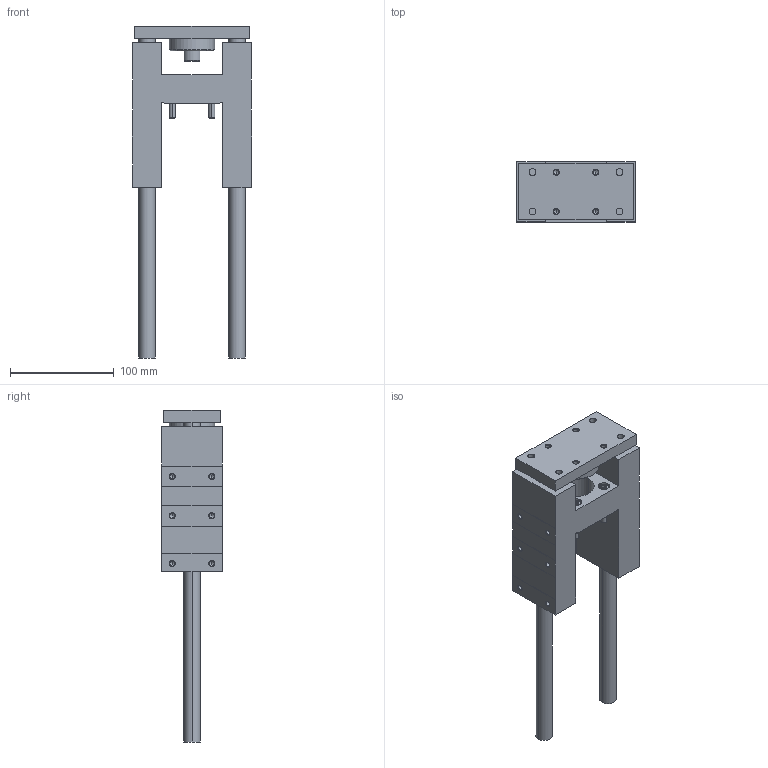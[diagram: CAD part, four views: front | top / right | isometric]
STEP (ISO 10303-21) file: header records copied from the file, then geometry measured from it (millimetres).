
FILE_DESCRIPTION (( 'STEP AP203' ), '1' );
FILE_NAME ('GB40-150.STEP', '2020-04-24T11:20:41', ( '' ), ( '' ), 'SwSTEP 2.0', 'SolidWorks 2019', '' );
FILE_SCHEMA (( 'CONFIG_CONTROL_DESIGN' ));
Length unit declared in the file: millimetre
Products named in the file (1): GB40-150
Bounding box: 115 x 58 x 320 mm (x, y, z)
Volume: 671928.6 mm3; surface area: 137552.5 mm2
Topology: 6 solids, 6 shells, 357 faces, 802 edges, 456 vertices
Faces by surface type: cone 142, plane 113, cylinder 102
Entity records: 10283 total; most frequent: CARTESIAN_POINT 2222, DIRECTION 1796, ORIENTED_EDGE 1532, EDGE_CURVE 766, AXIS2_PLACEMENT_3D 700, VERTEX_POINT 456, EDGE_LOOP 422, LINE 396
